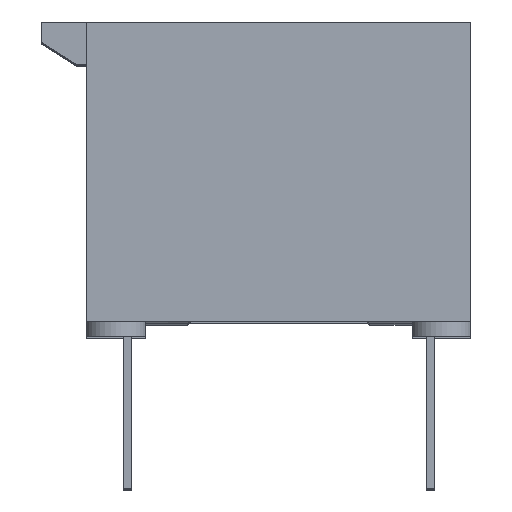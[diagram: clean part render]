
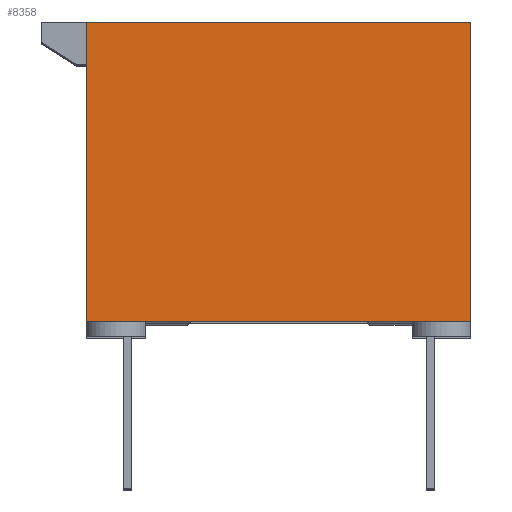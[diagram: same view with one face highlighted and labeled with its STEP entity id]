
A CAD part, top view. The second image highlights one B-rep face of the part: STEP entity #8358.
In plain terms, the highlighted planar face has unit normal (0, 0, 1).
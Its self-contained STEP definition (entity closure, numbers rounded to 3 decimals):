
#21 = ORIENTED_EDGE ( 'NONE', *, *, #19168, .T. ) ;
#313 = CARTESIAN_POINT ( 'NONE',  ( -4.889, 0., 0. ) ) ;
#1373 = VECTOR ( 'NONE', #28730, 1000. ) ;
#1469 = VECTOR ( 'NONE', #18594, 1000. ) ;
#2030 = VECTOR ( 'NONE', #16308, 1000. ) ;
#2305 = EDGE_CURVE ( 'NONE', #4681, #7813, #23270, .T. ) ;
#3397 = ORIENTED_EDGE ( 'NONE', *, *, #18757, .T. ) ;
#3614 = VERTEX_POINT ( 'NONE', #30008 ) ;
#4070 = VECTOR ( 'NONE', #12409, 1000. ) ;
#4681 = VERTEX_POINT ( 'NONE', #19991 ) ;
#5584 = VERTEX_POINT ( 'NONE', #19831 ) ;
#5754 = VECTOR ( 'NONE', #14373, 1000. ) ;
#6594 = LINE ( 'NONE', #16620, #16301 ) ;
#7658 = CARTESIAN_POINT ( 'NONE',  ( -4.889, 0., 0. ) ) ;
#7813 = VERTEX_POINT ( 'NONE', #14353 ) ;
#8358 = ADVANCED_FACE ( 'NONE', ( #27950 ), #27784, .F. ) ;
#8942 = CARTESIAN_POINT ( 'NONE',  ( -4.407, 0., 0. ) ) ;
#9272 = LINE ( 'NONE', #8942, #5754 ) ;
#9804 = LINE ( 'NONE', #7658, #4070 ) ;
#9977 = VERTEX_POINT ( 'NONE', #31824 ) ;
#11842 = LINE ( 'NONE', #13841, #1469 ) ;
#12409 = DIRECTION ( 'NONE',  ( 0., -1., 0. ) ) ;
#13385 = EDGE_CURVE ( 'NONE', #25049, #3614, #6594, .T. ) ;
#13841 = CARTESIAN_POINT ( 'NONE',  ( -4.407, 0., 0. ) ) ;
#14353 = CARTESIAN_POINT ( 'NONE',  ( 4.763, 7.518, 0. ) ) ;
#14373 = DIRECTION ( 'NONE',  ( 1., 0., 0. ) ) ;
#15366 = DIRECTION ( 'NONE',  ( 0., 0., -1. ) ) ;
#15396 = ORIENTED_EDGE ( 'NONE', *, *, #26168, .T. ) ;
#15977 = CARTESIAN_POINT ( 'NONE',  ( 4.763, 0., 0. ) ) ;
#16301 = VECTOR ( 'NONE', #26429, 1000. ) ;
#16308 = DIRECTION ( 'NONE',  ( 0., 1., 0. ) ) ;
#16620 = CARTESIAN_POINT ( 'NONE',  ( -4.407, 0., 0. ) ) ;
#16688 = ORIENTED_EDGE ( 'NONE', *, *, #26714, .T. ) ;
#18300 = CARTESIAN_POINT ( 'NONE',  ( -4.889, 0., 0. ) ) ;
#18539 = ORIENTED_EDGE ( 'NONE', *, *, #13385, .T. ) ;
#18594 = DIRECTION ( 'NONE',  ( 1., 0., 0. ) ) ;
#18757 = EDGE_CURVE ( 'NONE', #7813, #9977, #21401, .T. ) ;
#19092 = CARTESIAN_POINT ( 'NONE',  ( 4.763, 7.518, 0. ) ) ;
#19168 = EDGE_CURVE ( 'NONE', #9977, #25049, #9804, .T. ) ;
#19831 = CARTESIAN_POINT ( 'NONE',  ( 4.026, 0., 0. ) ) ;
#19991 = CARTESIAN_POINT ( 'NONE',  ( 4.763, 0., 0. ) ) ;
#21401 = LINE ( 'NONE', #19092, #1373 ) ;
#23270 = LINE ( 'NONE', #15977, #2030 ) ;
#24604 = AXIS2_PLACEMENT_3D ( 'NONE', #313, #15366, #25295 ) ;
#25049 = VERTEX_POINT ( 'NONE', #18300 ) ;
#25295 = DIRECTION ( 'NONE',  ( -1., 0., 0. ) ) ;
#26168 = EDGE_CURVE ( 'NONE', #5584, #4681, #11842, .T. ) ;
#26429 = DIRECTION ( 'NONE',  ( 1., 0., 0. ) ) ;
#26566 = EDGE_LOOP ( 'NONE', ( #3397, #21, #18539, #16688, #15396, #26780 ) ) ;
#26714 = EDGE_CURVE ( 'NONE', #3614, #5584, #9272, .T. ) ;
#26780 = ORIENTED_EDGE ( 'NONE', *, *, #2305, .T. ) ;
#27784 = PLANE ( 'NONE',  #24604 ) ;
#27950 = FACE_OUTER_BOUND ( 'NONE', #26566, .T. ) ;
#28730 = DIRECTION ( 'NONE',  ( -1., 0., 0. ) ) ;
#30008 = CARTESIAN_POINT ( 'NONE',  ( -4.153, 0., 0. ) ) ;
#31824 = CARTESIAN_POINT ( 'NONE',  ( -4.89, 7.518, 0. ) ) ;
